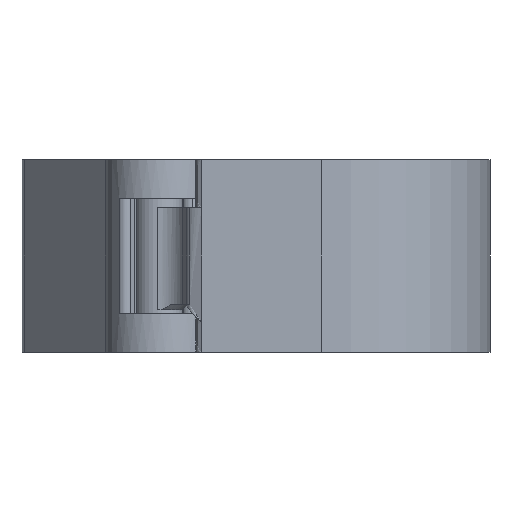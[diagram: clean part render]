
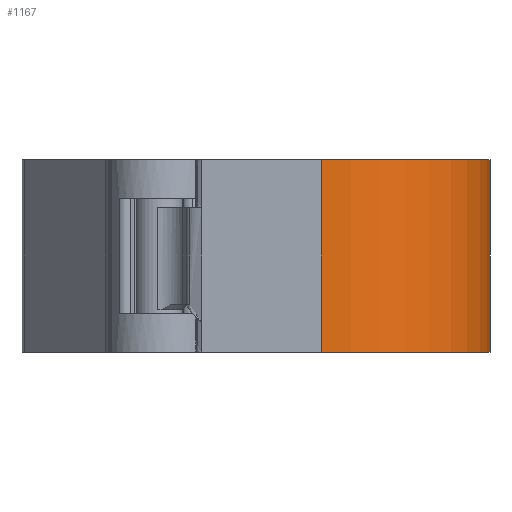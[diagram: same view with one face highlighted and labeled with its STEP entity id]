
A CAD part, left-side view. The second image highlights one B-rep face of the part: STEP entity #1167.
In plain terms, the highlighted cylindrical face has radius 17.5 mm (diameter 35 mm), a partial arc.
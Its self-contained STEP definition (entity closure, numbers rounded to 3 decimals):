
#81=CYLINDRICAL_SURFACE('',#1316,17.5);
#172=LINE('',#2379,#239);
#173=LINE('',#2380,#240);
#239=VECTOR('',#1621,10.);
#240=VECTOR('',#1622,10.);
#302=FACE_OUTER_BOUND('',#373,.T.);
#373=EDGE_LOOP('',(#1021,#1022,#1023,#1024));
#457=CIRCLE('',#1300,17.5);
#460=CIRCLE('',#1305,17.5);
#563=VERTEX_POINT('',#2128);
#564=VERTEX_POINT('',#2130);
#579=VERTEX_POINT('',#2320);
#580=VERTEX_POINT('',#2322);
#714=EDGE_CURVE('',#564,#563,#457,.T.);
#735=EDGE_CURVE('',#580,#579,#460,.T.);
#749=EDGE_CURVE('',#579,#564,#172,.T.);
#750=EDGE_CURVE('',#563,#580,#173,.T.);
#1021=ORIENTED_EDGE('',*,*,#735,.T.);
#1022=ORIENTED_EDGE('',*,*,#749,.T.);
#1023=ORIENTED_EDGE('',*,*,#714,.T.);
#1024=ORIENTED_EDGE('',*,*,#750,.T.);
#1167=ADVANCED_FACE('',(#302),#81,.T.);
#1300=AXIS2_PLACEMENT_3D('',#2131,#1581,#1582);
#1305=AXIS2_PLACEMENT_3D('',#2323,#1596,#1597);
#1316=AXIS2_PLACEMENT_3D('',#2378,#1619,#1620);
#1581=DIRECTION('center_axis',(0.,0.,1.));
#1582=DIRECTION('ref_axis',(-0.707,-0.707,0.));
#1596=DIRECTION('center_axis',(0.,0.,-1.));
#1597=DIRECTION('ref_axis',(-0.707,-0.707,0.));
#1619=DIRECTION('center_axis',(0.,0.,1.));
#1620=DIRECTION('ref_axis',(-0.707,-0.707,0.));
#1621=DIRECTION('',(0.,0.,-1.));
#1622=DIRECTION('',(0.,0.,1.));
#2128=CARTESIAN_POINT('',(-17.5,-20.,0.));
#2130=CARTESIAN_POINT('',(-35.,-2.5,0.));
#2131=CARTESIAN_POINT('Origin',(-17.5,-2.5,0.));
#2320=CARTESIAN_POINT('',(-35.,-2.5,20.));
#2322=CARTESIAN_POINT('',(-17.5,-20.,20.));
#2323=CARTESIAN_POINT('Origin',(-17.5,-2.5,20.));
#2378=CARTESIAN_POINT('Origin',(-17.5,-2.5,0.));
#2379=CARTESIAN_POINT('',(-35.,-2.5,0.));
#2380=CARTESIAN_POINT('',(-17.5,-20.,0.));
